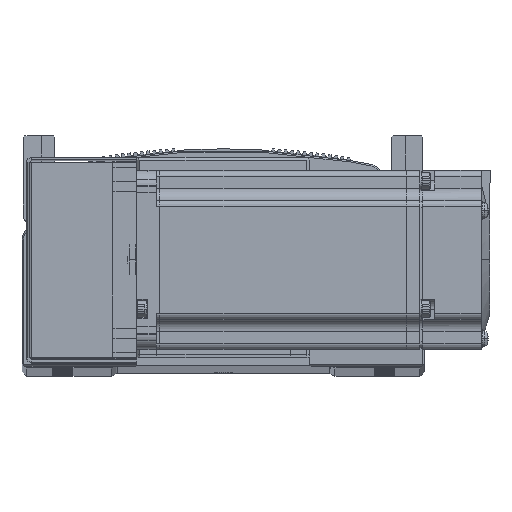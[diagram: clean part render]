
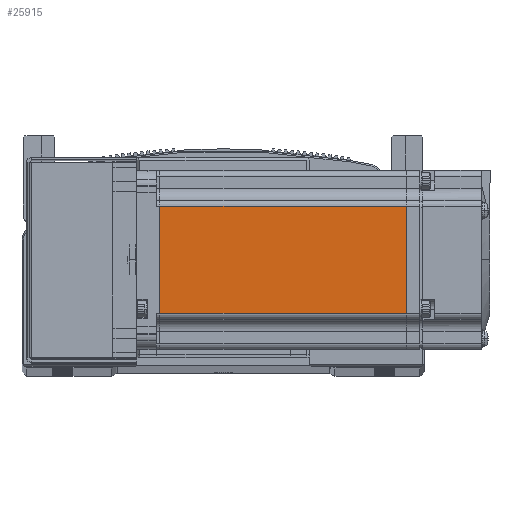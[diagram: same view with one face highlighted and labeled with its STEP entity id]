
A CAD part, top view. The second image highlights one B-rep face of the part: STEP entity #25915.
In plain terms, the highlighted planar face has unit normal (0, 0, 1) as drawn and (0, 0, -1) by its records, which use the part's own axes.
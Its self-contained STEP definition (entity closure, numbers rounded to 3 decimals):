
#5310 = DIRECTION ( 'NONE',  ( 0., 1., 0. ) ) ;
#5320 = CARTESIAN_POINT ( 'NONE',  ( -90.45, 25., -30. ) ) ;
#5558 = DIRECTION ( 'NONE',  ( 0., -1., 0. ) ) ;
#5566 = CARTESIAN_POINT ( 'NONE',  ( -7.75, 25., -30. ) ) ;
#5592 = CARTESIAN_POINT ( 'NONE',  ( -6.5, -18., -30. ) ) ;
#5598 = DIRECTION ( 'NONE',  ( -1., 0., 0. ) ) ;
#7751 = DIRECTION ( 'NONE',  ( 1., 0., 0. ) ) ;
#7758 = CARTESIAN_POINT ( 'NONE',  ( -6.5, 18., -30. ) ) ;
#25915 = ADVANCED_FACE ( 'NONE', ( #29887 ), #61392, .T. ) ;
#29887 = FACE_OUTER_BOUND ( 'NONE', #53011, .T. ) ;
#43401 = ORIENTED_EDGE ( 'NONE', *, *, #75839, .T. ) ;
#43544 = ORIENTED_EDGE ( 'NONE', *, *, #75564, .T. ) ;
#43672 = ORIENTED_EDGE ( 'NONE', *, *, #75878, .T. ) ;
#43745 = ORIENTED_EDGE ( 'NONE', *, *, #75656, .T. ) ;
#48607 = CARTESIAN_POINT ( 'NONE',  ( -90.45, -18., -30. ) ) ;
#48640 = CARTESIAN_POINT ( 'NONE',  ( -7.75, 18., -30. ) ) ;
#48643 = CARTESIAN_POINT ( 'NONE',  ( -90.45, 18., -30. ) ) ;
#48687 = CARTESIAN_POINT ( 'NONE',  ( -7.75, -18., -30. ) ) ;
#49874 = AXIS2_PLACEMENT_3D ( 'NONE', #61422, #61363, #61415 ) ;
#53011 = EDGE_LOOP ( 'NONE', ( #43401, #43672, #43745, #43544 ) ) ;
#60496 = VECTOR ( 'NONE', #7751, 1000. ) ;
#60547 = LINE ( 'NONE', #7758, #60496 ) ;
#60735 = LINE ( 'NONE', #5320, #60763 ) ;
#60763 = VECTOR ( 'NONE', #5310, 1000. ) ;
#61030 = VECTOR ( 'NONE', #5558, 1000. ) ;
#61053 = LINE ( 'NONE', #5566, #61030 ) ;
#61079 = LINE ( 'NONE', #5592, #61082 ) ;
#61082 = VECTOR ( 'NONE', #5598, 1000. ) ;
#61363 = DIRECTION ( 'NONE',  ( 0., 0., -1. ) ) ;
#61392 = PLANE ( 'NONE',  #49874 ) ;
#61415 = DIRECTION ( 'NONE',  ( -1., 0., 0. ) ) ;
#61422 = CARTESIAN_POINT ( 'NONE',  ( -6.5, 25., -30. ) ) ;
#75564 = EDGE_CURVE ( 'NONE', #83475, #83448, #60547, .T. ) ;
#75656 = EDGE_CURVE ( 'NONE', #83439, #83475, #60735, .T. ) ;
#75839 = EDGE_CURVE ( 'NONE', #83448, #83479, #61053, .T. ) ;
#75878 = EDGE_CURVE ( 'NONE', #83479, #83439, #61079, .T. ) ;
#83439 = VERTEX_POINT ( 'NONE', #48607 ) ;
#83448 = VERTEX_POINT ( 'NONE', #48640 ) ;
#83475 = VERTEX_POINT ( 'NONE', #48643 ) ;
#83479 = VERTEX_POINT ( 'NONE', #48687 ) ;
